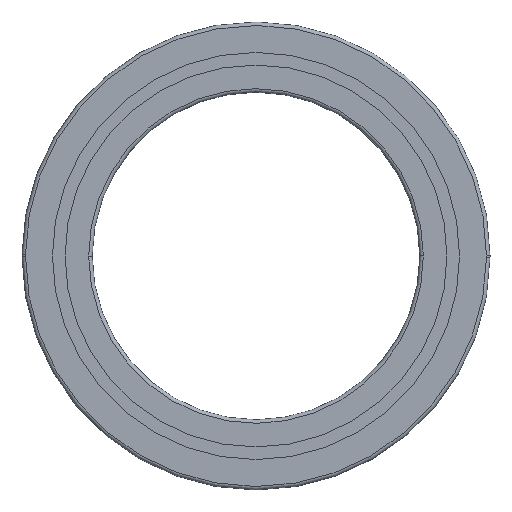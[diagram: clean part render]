
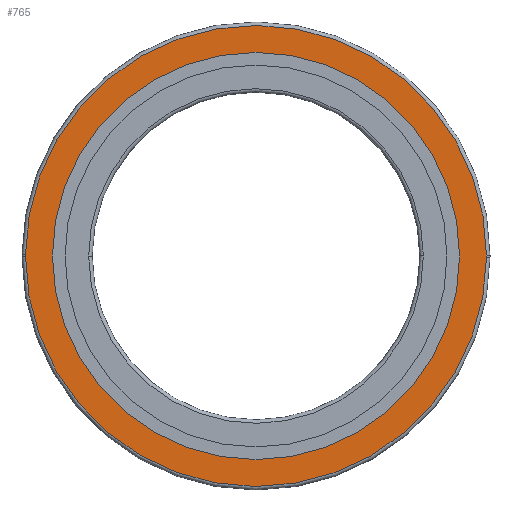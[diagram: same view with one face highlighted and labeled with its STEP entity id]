
A CAD part, front view. The second image highlights one B-rep face of the part: STEP entity #765.
In plain terms, the highlighted planar face has unit normal (0, -1, 0).
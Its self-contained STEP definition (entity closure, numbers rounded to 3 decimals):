
#359=VERTEX_POINT('',#905);
#441=VERTEX_POINT('',#998);
#481=VERTEX_POINT('',#1042);
#533=EDGE_CURVE('',#481,#441,#1097,.T.);
#539=EDGE_CURVE('',#541,#359,#1104,.T.);
#541=VERTEX_POINT('',#1106);
#611=EDGE_CURVE('',#441,#481,#1184,.T.);
#679=EDGE_CURVE('',#359,#729,#1260,.T.);
#707=VERTEX_POINT('',#1289);
#709=EDGE_CURVE('',#729,#707,#1291,.T.);
#713=EDGE_CURVE('',#707,#541,#1295,.T.);
#729=VERTEX_POINT('',#1312);
#765=ADVANCED_FACE('',(#1351,#1352),#1353,.F.);
#905=CARTESIAN_POINT('',(-98.498,0.0,0.609));
#998=CARTESIAN_POINT('',(-87.0,0.0,0.0));
#1042=CARTESIAN_POINT('',(87.0,0.0,0.));
#1097=CIRCLE('',#1753,87.0);
#1104=CIRCLE('',#1762,98.5);
#1106=CARTESIAN_POINT('',(98.5,0.0,0.0));
#1184=CIRCLE('',#1860,87.0);
#1260=CIRCLE('',#1958,98.5);
#1289=CARTESIAN_POINT('',(98.498,0.0,-0.609));
#1291=CIRCLE('',#1996,98.5);
#1295=CIRCLE('',#2002,98.5);
#1312=CARTESIAN_POINT('',(-98.5,0.0,0.));
#1351=FACE_OUTER_BOUND('',#2076,.T.);
#1352=FACE_BOUND('',#2077,.T.);
#1353=PLANE('',#2078);
#1753=AXIS2_PLACEMENT_3D('',#2479,#2480,#2481);
#1762=AXIS2_PLACEMENT_3D('',#2493,#2494,#2495);
#1860=AXIS2_PLACEMENT_3D('',#2594,#2595,#2596);
#1958=AXIS2_PLACEMENT_3D('',#2710,#2711,#2712);
#1996=AXIS2_PLACEMENT_3D('',#2739,#2740,#2741);
#2002=AXIS2_PLACEMENT_3D('',#2745,#2746,#2747);
#2076=EDGE_LOOP('',(#2813,#2814,#2815,#2816));
#2077=EDGE_LOOP('',(#2817,#2818));
#2078=AXIS2_PLACEMENT_3D('',#2819,#2820,#2821);
#2479=CARTESIAN_POINT('',(0.0,0.0,0.0));
#2480=DIRECTION('',(0.0,-1.0,0.0));
#2481=DIRECTION('',(1.0,0.0,0.0));
#2493=CARTESIAN_POINT('',(0.0,0.0,0.0));
#2494=DIRECTION('',(0.0,-1.0,0.0));
#2495=DIRECTION('',(1.0,0.0,0.0));
#2594=CARTESIAN_POINT('',(0.0,0.0,0.0));
#2595=DIRECTION('',(0.0,-1.0,0.0));
#2596=DIRECTION('',(-1.0,0.0,0.0));
#2710=CARTESIAN_POINT('',(0.0,0.0,0.0));
#2711=DIRECTION('',(0.0,-1.0,0.0));
#2712=DIRECTION('',(1.0,0.0,0.0));
#2739=CARTESIAN_POINT('',(0.0,0.0,0.0));
#2740=DIRECTION('',(0.0,-1.0,0.0));
#2741=DIRECTION('',(-1.0,0.0,0.0));
#2745=CARTESIAN_POINT('',(0.0,0.0,0.0));
#2746=DIRECTION('',(0.0,-1.0,0.0));
#2747=DIRECTION('',(-1.0,0.0,0.0));
#2813=ORIENTED_EDGE('',*,*,#539,.T.);
#2814=ORIENTED_EDGE('',*,*,#679,.T.);
#2815=ORIENTED_EDGE('',*,*,#709,.T.);
#2816=ORIENTED_EDGE('',*,*,#713,.T.);
#2817=ORIENTED_EDGE('',*,*,#611,.F.);
#2818=ORIENTED_EDGE('',*,*,#533,.F.);
#2819=CARTESIAN_POINT('',(0.0,0.0,0.0));
#2820=DIRECTION('',(0.0,1.0,0.0));
#2821=DIRECTION('',(1.0,0.0,-0.0));
